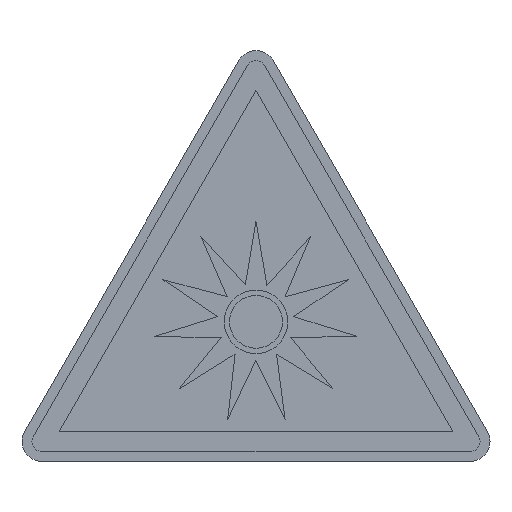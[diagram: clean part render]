
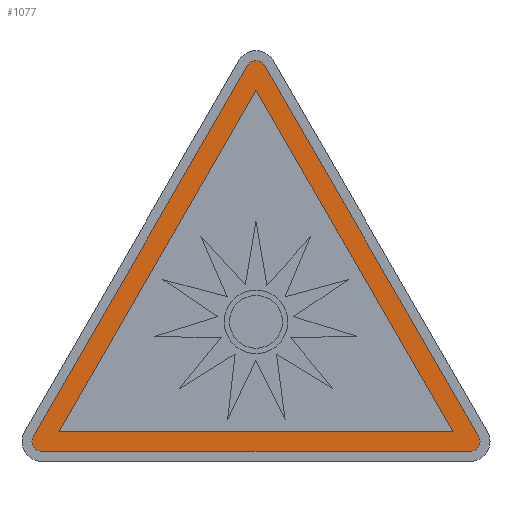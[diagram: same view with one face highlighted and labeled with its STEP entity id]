
A CAD part, top view. The second image highlights one B-rep face of the part: STEP entity #1077.
In plain terms, the highlighted planar face has unit normal (0, 0, 1).
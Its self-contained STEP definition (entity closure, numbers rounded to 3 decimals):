
#38 = CARTESIAN_POINT ( 'NONE',  ( 0., 37.301, 0.22 ) ) ;
#50 = ORIENTED_EDGE ( 'NONE', *, *, #559, .T. ) ;
#77 = VECTOR ( 'NONE', #2029, 1000. ) ;
#194 = CARTESIAN_POINT ( 'NONE',  ( 0., 39.301, 0.22 ) ) ;
#204 = VECTOR ( 'NONE', #2054, 1000. ) ;
#210 = LINE ( 'NONE', #2056, #77 ) ;
#212 = ORIENTED_EDGE ( 'NONE', *, *, #2137, .T. ) ;
#219 = CARTESIAN_POINT ( 'NONE',  ( 0., 37.301, 0.22 ) ) ;
#223 = EDGE_LOOP ( 'NONE', ( #1620, #286, #1361 ) ) ;
#225 = VERTEX_POINT ( 'NONE', #1577 ) ;
#231 = VERTEX_POINT ( 'NONE', #241 ) ;
#234 = DIRECTION ( 'NONE',  ( 1., 0., 0. ) ) ;
#235 = CARTESIAN_POINT ( 'NONE',  ( 22.402, 2.5, 0.22 ) ) ;
#237 = CIRCLE ( 'NONE', #306, 1. ) ;
#241 = CARTESIAN_POINT ( 'NONE',  ( -19.804, 3., 0.22 ) ) ;
#286 = ORIENTED_EDGE ( 'NONE', *, *, #505, .F. ) ;
#293 = VERTEX_POINT ( 'NONE', #1299 ) ;
#306 = AXIS2_PLACEMENT_3D ( 'NONE', #1085, #1878, #1917 ) ;
#339 = AXIS2_PLACEMENT_3D ( 'NONE', #957, #1254, #1944 ) ;
#395 = DIRECTION ( 'NONE',  ( 0., 0., 1. ) ) ;
#403 = CARTESIAN_POINT ( 'NONE',  ( -21.536, 1., 0.22 ) ) ;
#412 = VERTEX_POINT ( 'NONE', #716 ) ;
#438 = CARTESIAN_POINT ( 'NONE',  ( 21.536, 1., 0.22 ) ) ;
#468 = VERTEX_POINT ( 'NONE', #1517 ) ;
#498 = FACE_BOUND ( 'NONE', #223, .T. ) ;
#505 = EDGE_CURVE ( 'NONE', #1228, #231, #1172, .T. ) ;
#509 = ORIENTED_EDGE ( 'NONE', *, *, #1901, .T. ) ;
#559 = EDGE_CURVE ( 'NONE', #793, #225, #589, .T. ) ;
#571 = LINE ( 'NONE', #1225, #1533 ) ;
#589 = CIRCLE ( 'NONE', #693, 1. ) ;
#599 = VERTEX_POINT ( 'NONE', #235 ) ;
#690 = CARTESIAN_POINT ( 'NONE',  ( 21.536, 2., 0.22 ) ) ;
#693 = AXIS2_PLACEMENT_3D ( 'NONE', #1754, #395, #1375 ) ;
#716 = CARTESIAN_POINT ( 'NONE',  ( -0.866, 39.801, 0.22 ) ) ;
#727 = VECTOR ( 'NONE', #1357, 1000. ) ;
#759 = AXIS2_PLACEMENT_3D ( 'NONE', #690, #1695, #1662 ) ;
#789 = CARTESIAN_POINT ( 'NONE',  ( -21.536, 1., 0.22 ) ) ;
#793 = VERTEX_POINT ( 'NONE', #1080 ) ;
#836 = PLANE ( 'NONE',  #1484 ) ;
#848 = ORIENTED_EDGE ( 'NONE', *, *, #2110, .T. ) ;
#927 = LINE ( 'NONE', #403, #1787 ) ;
#952 = ORIENTED_EDGE ( 'NONE', *, *, #1167, .T. ) ;
#957 = CARTESIAN_POINT ( 'NONE',  ( -21.536, 2., 0.22 ) ) ;
#991 = DIRECTION ( 'NONE',  ( -0.5, 0.866, 0. ) ) ;
#993 = EDGE_CURVE ( 'NONE', #1410, #599, #1135, .T. ) ;
#1063 = CARTESIAN_POINT ( 'NONE',  ( -19.804, 3., 0.22 ) ) ;
#1077 = ADVANCED_FACE ( 'NONE', ( #1844, #498 ), #836, .T. ) ;
#1080 = CARTESIAN_POINT ( 'NONE',  ( -22.402, 2.5, 0.22 ) ) ;
#1082 = ORIENTED_EDGE ( 'NONE', *, *, #993, .T. ) ;
#1085 = CARTESIAN_POINT ( 'NONE',  ( 0., 39.301, 0.22 ) ) ;
#1097 = EDGE_CURVE ( 'NONE', #225, #1119, #1307, .T. ) ;
#1119 = VERTEX_POINT ( 'NONE', #789 ) ;
#1135 = CIRCLE ( 'NONE', #759, 1. ) ;
#1167 = EDGE_CURVE ( 'NONE', #468, #412, #237, .T. ) ;
#1172 = LINE ( 'NONE', #38, #727 ) ;
#1206 = ORIENTED_EDGE ( 'NONE', *, *, #1097, .T. ) ;
#1225 = CARTESIAN_POINT ( 'NONE',  ( -0.866, 39.801, 0.22 ) ) ;
#1228 = VERTEX_POINT ( 'NONE', #219 ) ;
#1254 = DIRECTION ( 'NONE',  ( 0., 0., 1. ) ) ;
#1299 = CARTESIAN_POINT ( 'NONE',  ( 19.804, 3., 0.22 ) ) ;
#1307 = CIRCLE ( 'NONE', #339, 1. ) ;
#1357 = DIRECTION ( 'NONE',  ( -0.5, -0.866, 0. ) ) ;
#1361 = ORIENTED_EDGE ( 'NONE', *, *, #1462, .F. ) ;
#1375 = DIRECTION ( 'NONE',  ( 1., 0., 0. ) ) ;
#1410 = VERTEX_POINT ( 'NONE', #438 ) ;
#1462 = EDGE_CURVE ( 'NONE', #293, #1228, #1967, .T. ) ;
#1484 = AXIS2_PLACEMENT_3D ( 'NONE', #194, #1494, #1676 ) ;
#1494 = DIRECTION ( 'NONE',  ( 0., 0., 1. ) ) ;
#1517 = CARTESIAN_POINT ( 'NONE',  ( 0.866, 39.801, 0.22 ) ) ;
#1533 = VECTOR ( 'NONE', #1583, 1000. ) ;
#1577 = CARTESIAN_POINT ( 'NONE',  ( -22.536, 2., 0.22 ) ) ;
#1583 = DIRECTION ( 'NONE',  ( -0.5, -0.866, 0. ) ) ;
#1620 = ORIENTED_EDGE ( 'NONE', *, *, #1691, .F. ) ;
#1662 = DIRECTION ( 'NONE',  ( 1., 0., 0. ) ) ;
#1676 = DIRECTION ( 'NONE',  ( 1., 0., 0. ) ) ;
#1691 = EDGE_CURVE ( 'NONE', #231, #293, #1876, .T. ) ;
#1695 = DIRECTION ( 'NONE',  ( 0., 0., 1. ) ) ;
#1751 = EDGE_LOOP ( 'NONE', ( #952, #212, #50, #1206, #509, #1082, #848 ) ) ;
#1754 = CARTESIAN_POINT ( 'NONE',  ( -21.536, 2., 0.22 ) ) ;
#1787 = VECTOR ( 'NONE', #234, 1000. ) ;
#1844 = FACE_OUTER_BOUND ( 'NONE', #1751, .T. ) ;
#1876 = LINE ( 'NONE', #1063, #204 ) ;
#1878 = DIRECTION ( 'NONE',  ( 0., 0., 1. ) ) ;
#1901 = EDGE_CURVE ( 'NONE', #1119, #1410, #927, .T. ) ;
#1917 = DIRECTION ( 'NONE',  ( 1., 0., 0. ) ) ;
#1944 = DIRECTION ( 'NONE',  ( 1., 0., 0. ) ) ;
#1967 = LINE ( 'NONE', #1999, #2115 ) ;
#1999 = CARTESIAN_POINT ( 'NONE',  ( 19.804, 3., 0.22 ) ) ;
#2029 = DIRECTION ( 'NONE',  ( -0.5, 0.866, 0. ) ) ;
#2054 = DIRECTION ( 'NONE',  ( 1., 0., 0. ) ) ;
#2056 = CARTESIAN_POINT ( 'NONE',  ( 22.402, 2.5, 0.22 ) ) ;
#2110 = EDGE_CURVE ( 'NONE', #599, #468, #210, .T. ) ;
#2115 = VECTOR ( 'NONE', #991, 1000. ) ;
#2137 = EDGE_CURVE ( 'NONE', #412, #793, #571, .T. ) ;
